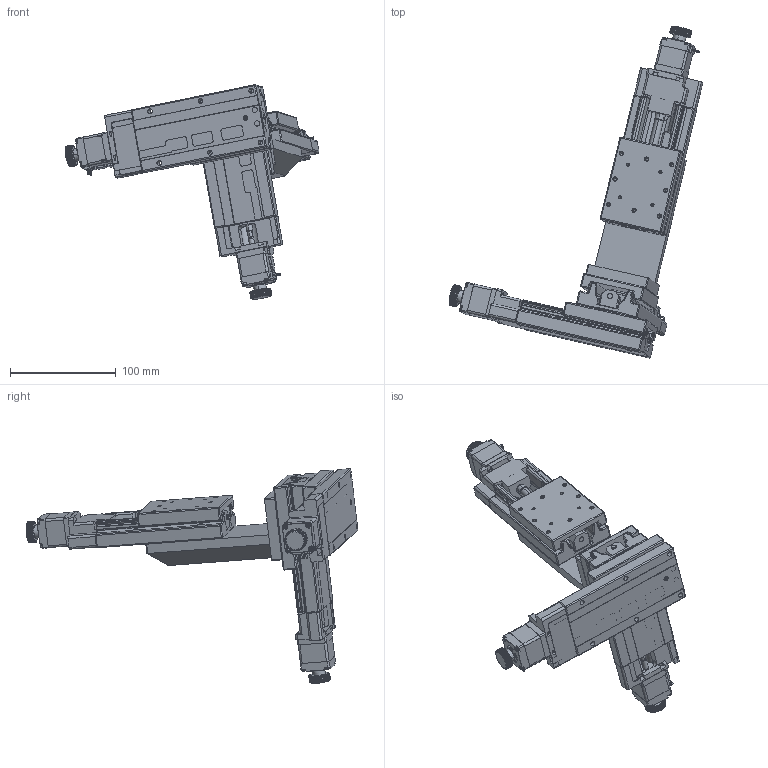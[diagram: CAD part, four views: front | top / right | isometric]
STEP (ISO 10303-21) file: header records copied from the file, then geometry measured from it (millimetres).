
FILE_DESCRIPTION (( 'STEP AP203' ), '1' );
FILE_NAME ('CXYZS6050-S2PN-CD.STEP', '2016-05-26T08:18:06', ( '' ), ( '' ), 'SwSTEP 2.0', 'SolidWorks 2016', '' );
FILE_SCHEMA (( 'CONFIG_CONTROL_DESIGN' ));
Length unit declared in the file: millimetre
Products named in the file (5): Group1^CXYZS6050-S2PN-CD模糊化; Group2^CXYZS6050-S2PN-CD模糊化; Group4^CXYZS6050-S2PN-CD模糊化; Group5^CXYZS6050-S2PN-CD模糊化; CXYZS6050-S2PN-CD
Assembly tree (4 placements, depth 2):
  CXYZS6050-S2PN-CD
    Group1^CXYZS6050-S2PN-CD模糊化
    Group2^CXYZS6050-S2PN-CD模糊化
    Group4^CXYZS6050-S2PN-CD模糊化
    Group5^CXYZS6050-S2PN-CD模糊化
Bounding box: 240.09 x 313.93 x 202.86 mm (x, y, z)
Volume: 740715.4 mm3; surface area: 238504.7 mm2
Topology: 34 solids, 34 shells, 4398 faces, 12032 edges, 7638 vertices
Faces by surface type: plane 1719, cylinder 1313, cone 659, torus 597, sphere 92, bspline 18
Entity records: 145202 total; most frequent: CARTESIAN_POINT 35517, ORIENTED_EDGE 23708, DIRECTION 22587, EDGE_CURVE 11854, AXIS2_PLACEMENT_3D 8786, VERTEX_POINT 7598, VECTOR 5015, LINE 5015
